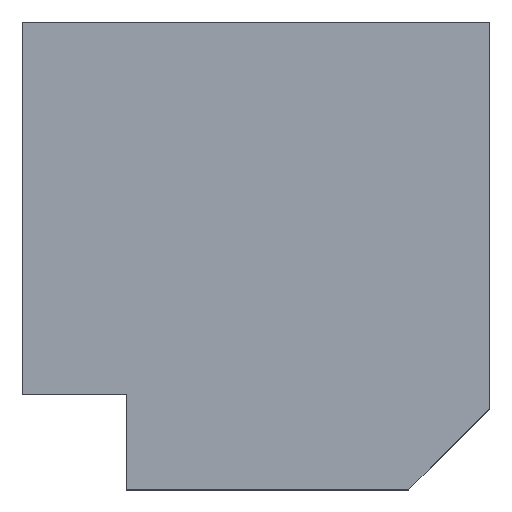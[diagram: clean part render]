
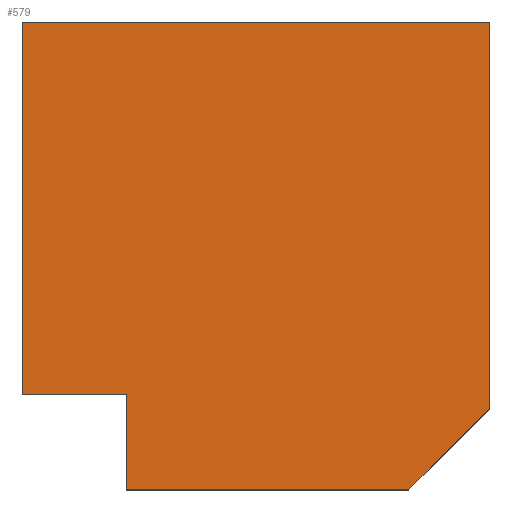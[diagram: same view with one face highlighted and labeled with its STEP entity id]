
A CAD part, top view. The second image highlights one B-rep face of the part: STEP entity #579.
In plain terms, the highlighted planar face has unit normal (0, 0, 1).
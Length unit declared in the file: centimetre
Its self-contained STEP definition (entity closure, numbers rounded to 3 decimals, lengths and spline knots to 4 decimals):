
#4 = DIRECTION ( 'NONE',  ( 0.707, 0.707, 0. ) ) ;
#5 = VECTOR ( 'NONE', #321, 100. ) ;
#23 = VECTOR ( 'NONE', #470, 100. ) ;
#32 = CARTESIAN_POINT ( 'NONE',  ( 827.2259, 0., 1000. ) ) ;
#48 = ORIENTED_EDGE ( 'NONE', *, *, #412, .T. ) ;
#67 = LINE ( 'NONE', #467, #411 ) ;
#72 = VECTOR ( 'NONE', #482, 100. ) ;
#98 = CARTESIAN_POINT ( 'NONE',  ( 221.7993, 0., 1000. ) ) ;
#116 = LINE ( 'NONE', #587, #325 ) ;
#117 = CARTESIAN_POINT ( 'NONE',  ( 0., 1000., 1000. ) ) ;
#135 = FACE_OUTER_BOUND ( 'NONE', #225, .T. ) ;
#155 = EDGE_CURVE ( 'NONE', #277, #534, #67, .T. ) ;
#157 = CARTESIAN_POINT ( 'NONE',  ( 0., 1000., 1000. ) ) ;
#169 = ORIENTED_EDGE ( 'NONE', *, *, #199, .T. ) ;
#170 = CARTESIAN_POINT ( 'NONE',  ( 0., 0., 1000. ) ) ;
#177 = ORIENTED_EDGE ( 'NONE', *, *, #448, .F. ) ;
#182 = ORIENTED_EDGE ( 'NONE', *, *, #319, .F. ) ;
#190 = VERTEX_POINT ( 'NONE', #592 ) ;
#196 = VECTOR ( 'NONE', #630, 100. ) ;
#199 = EDGE_CURVE ( 'NONE', #428, #277, #512, .T. ) ;
#207 = VERTEX_POINT ( 'NONE', #341 ) ;
#211 = DIRECTION ( 'NONE',  ( -1., 0., 0. ) ) ;
#224 = ORIENTED_EDGE ( 'NONE', *, *, #440, .T. ) ;
#225 = EDGE_LOOP ( 'NONE', ( #177, #182, #169, #531, #224, #48, #320 ) ) ;
#234 = DIRECTION ( 'NONE',  ( 1., 0., 0. ) ) ;
#277 = VERTEX_POINT ( 'NONE', #32 ) ;
#283 = CARTESIAN_POINT ( 'NONE',  ( 0., 0., 1000. ) ) ;
#301 = DIRECTION ( 'NONE',  ( 0., 1., 0. ) ) ;
#314 = VECTOR ( 'NONE', #301, 100. ) ;
#319 = EDGE_CURVE ( 'NONE', #428, #207, #453, .T. ) ;
#320 = ORIENTED_EDGE ( 'NONE', *, *, #607, .T. ) ;
#321 = DIRECTION ( 'NONE',  ( -1., 0., 0. ) ) ;
#322 = VERTEX_POINT ( 'NONE', #502 ) ;
#325 = VECTOR ( 'NONE', #211, 100. ) ;
#337 = CARTESIAN_POINT ( 'NONE',  ( 221.7993, 0., 1000. ) ) ;
#341 = CARTESIAN_POINT ( 'NONE',  ( 221.7993, 203.353, 1000. ) ) ;
#346 = PLANE ( 'NONE',  #555 ) ;
#378 = LINE ( 'NONE', #444, #196 ) ;
#386 = LINE ( 'NONE', #435, #72 ) ;
#411 = VECTOR ( 'NONE', #4, 100. ) ;
#412 = EDGE_CURVE ( 'NONE', #322, #473, #600, .T. ) ;
#428 = VERTEX_POINT ( 'NONE', #337 ) ;
#435 = CARTESIAN_POINT ( 'NONE',  ( 0., 1000., 1000. ) ) ;
#440 = EDGE_CURVE ( 'NONE', #534, #322, #378, .T. ) ;
#444 = CARTESIAN_POINT ( 'NONE',  ( 1000., 1000., 1000. ) ) ;
#448 = EDGE_CURVE ( 'NONE', #207, #190, #116, .T. ) ;
#453 = LINE ( 'NONE', #98, #314 ) ;
#467 = CARTESIAN_POINT ( 'NONE',  ( 413.613, -413.613, 1000. ) ) ;
#470 = DIRECTION ( 'NONE',  ( 1., 0., 0. ) ) ;
#473 = VERTEX_POINT ( 'NONE', #157 ) ;
#482 = DIRECTION ( 'NONE',  ( 0., -1., 0. ) ) ;
#493 = DIRECTION ( 'NONE',  ( 0., 0., 1. ) ) ;
#502 = CARTESIAN_POINT ( 'NONE',  ( 1000., 1000., 1000. ) ) ;
#512 = LINE ( 'NONE', #170, #23 ) ;
#531 = ORIENTED_EDGE ( 'NONE', *, *, #155, .T. ) ;
#534 = VERTEX_POINT ( 'NONE', #538 ) ;
#538 = CARTESIAN_POINT ( 'NONE',  ( 1000., 172.7741, 1000. ) ) ;
#555 = AXIS2_PLACEMENT_3D ( 'NONE', #283, #493, #234 ) ;
#579 = ADVANCED_FACE ( 'NONE', ( #135 ), #346, .T. ) ;
#587 = CARTESIAN_POINT ( 'NONE',  ( 221.7993, 203.353, 1000. ) ) ;
#592 = CARTESIAN_POINT ( 'NONE',  ( 0., 203.353, 1000. ) ) ;
#600 = LINE ( 'NONE', #117, #5 ) ;
#607 = EDGE_CURVE ( 'NONE', #473, #190, #386, .T. ) ;
#630 = DIRECTION ( 'NONE',  ( 0., 1., 0. ) ) ;
